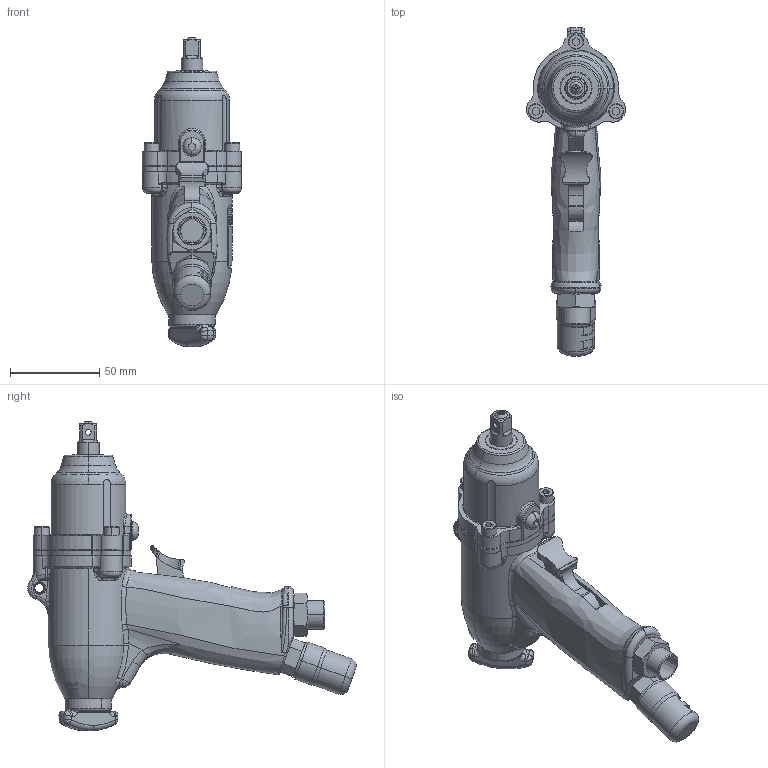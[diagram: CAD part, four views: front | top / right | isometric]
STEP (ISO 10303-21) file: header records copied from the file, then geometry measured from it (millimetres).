
FILE_DESCRIPTION (( 'STEP AP203' ), '1' );
FILE_NAME ('UW-6SLRK.STEP', '2007-09-12T04:15:13', ( 'gikai-nt16' ), ( ' ' ), 'SwSTEP 2.0', 'SolidWorks 2003240', '' );
FILE_SCHEMA (( 'CONFIG_CONTROL_DESIGN' ));
Length unit declared in the file: millimetre
Products named in the file (9): 2358850_UW-6SLRK_蹬怮椔; 0040255_UW-6SLRK_蹬怮椔; 0261077_UW-6SLRK_蹬怮椔; UW-6SLRK; 0043191_UW-6SLRK_蹬怮椔; 0040282_UW-6SLDK_蹬怮椔; 1850907_UW-6SLDK_蹬怮椔; 0040271_UW-6SLDK_蹬怮椔; 0042121_UW-6SLRK_蹬怮椔
Assembly tree (8 placements, depth 2):
  UW-6SLRK
    0261077_UW-6SLRK_蹬怮椔
    1850907_UW-6SLDK_蹬怮椔
    0040255_UW-6SLRK_蹬怮椔
    2358850_UW-6SLRK_蹬怮椔
    0043191_UW-6SLRK_蹬怮椔
    0042121_UW-6SLRK_蹬怮椔
    0040282_UW-6SLDK_蹬怮椔
    0040271_UW-6SLDK_蹬怮椔
Bounding box: 55.57 x 184.2 x 173.5 mm (x, y, z)
Volume: 322814.7 mm3; surface area: 57510.4 mm2
Topology: 8 solids, 8 shells, 871 faces, 2272 edges, 1435 vertices
Faces by surface type: cylinder 303, plane 282, bspline 171, torus 67, cone 40, sphere 8
Entity records: 92794 total; most frequent: CARTESIAN_POINT 72127, ORIENTED_EDGE 4496, DIRECTION 3589, EDGE_CURVE 2248, VERTEX_POINT 1435, AXIS2_PLACEMENT_3D 1357, EDGE_LOOP 921, VECTOR 875
